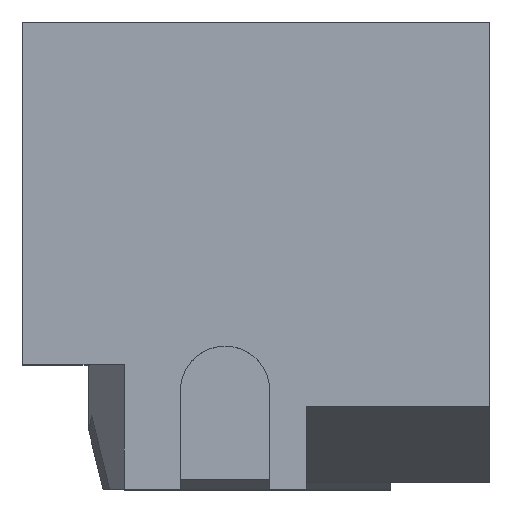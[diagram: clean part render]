
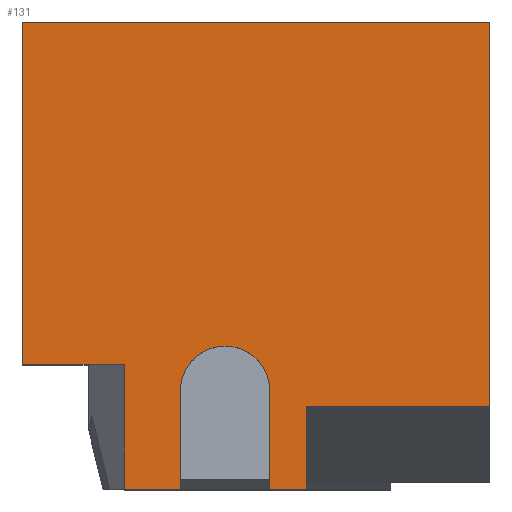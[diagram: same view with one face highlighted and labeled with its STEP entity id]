
A CAD part, top view. The second image highlights one B-rep face of the part: STEP entity #131.
In plain terms, the highlighted planar face has unit normal (0, 0, 1).
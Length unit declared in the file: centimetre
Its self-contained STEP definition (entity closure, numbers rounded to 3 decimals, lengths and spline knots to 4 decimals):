
#19 = LINE ( 'NONE', #409, #692 ) ;
#23 = ORIENTED_EDGE ( 'NONE', *, *, #547, .T. ) ;
#58 = LINE ( 'NONE', #542, #314 ) ;
#59 = CARTESIAN_POINT ( 'NONE',  ( 0., 1000., 1000. ) ) ;
#63 = VECTOR ( 'NONE', #140, 100. ) ;
#66 = ORIENTED_EDGE ( 'NONE', *, *, #1051, .F. ) ;
#70 = ORIENTED_EDGE ( 'NONE', *, *, #997, .F. ) ;
#72 = CARTESIAN_POINT ( 'NONE',  ( 338.1539, 0., 1000. ) ) ;
#84 = EDGE_CURVE ( 'NONE', #119, #979, #58, .T. ) ;
#95 = VECTOR ( 'NONE', #646, 100. ) ;
#105 = CARTESIAN_POINT ( 'NONE',  ( 607.9084, 177.0847, 1000. ) ) ;
#108 = VERTEX_POINT ( 'NONE', #293 ) ;
#111 = VECTOR ( 'NONE', #1034, 100. ) ;
#117 = VECTOR ( 'NONE', #965, 100. ) ;
#119 = VERTEX_POINT ( 'NONE', #367 ) ;
#130 = CARTESIAN_POINT ( 'NONE',  ( 607.9084, 0., 1000. ) ) ;
#131 = ADVANCED_FACE ( 'NONE', ( #803 ), #403, .T. ) ;
#139 = VERTEX_POINT ( 'NONE', #228 ) ;
#140 = DIRECTION ( 'NONE',  ( 1., 0., 0. ) ) ;
#142 = LINE ( 'NONE', #227, #400 ) ;
#162 = DIRECTION ( 'NONE',  ( 0., 1., 0. ) ) ;
#169 = CARTESIAN_POINT ( 'NONE',  ( 218.2965, 266.6594, 1000. ) ) ;
#204 = VERTEX_POINT ( 'NONE', #72 ) ;
#205 = DIRECTION ( 'NONE',  ( 0., 0., 1. ) ) ;
#211 = LINE ( 'NONE', #541, #63 ) ;
#227 = CARTESIAN_POINT ( 'NONE',  ( 529.5846, 210.6018, 1000. ) ) ;
#228 = CARTESIAN_POINT ( 'NONE',  ( 218.2965, 266.6594, 1000. ) ) ;
#235 = ORIENTED_EDGE ( 'NONE', *, *, #1047, .T. ) ;
#263 = LINE ( 'NONE', #660, #1006 ) ;
#280 = EDGE_CURVE ( 'NONE', #139, #526, #19, .T. ) ;
#289 = DIRECTION ( 'NONE',  ( -1., 0., 0. ) ) ;
#293 = CARTESIAN_POINT ( 'NONE',  ( 1000., 177.0847, 1000. ) ) ;
#298 = DIRECTION ( 'NONE',  ( 1., 0., 0. ) ) ;
#303 = CARTESIAN_POINT ( 'NONE',  ( 607.9084, 0., 1000. ) ) ;
#314 = VECTOR ( 'NONE', #525, 100. ) ;
#357 = ORIENTED_EDGE ( 'NONE', *, *, #666, .T. ) ;
#361 = ORIENTED_EDGE ( 'NONE', *, *, #929, .T. ) ;
#367 = CARTESIAN_POINT ( 'NONE',  ( 529.5846, 0., 1000. ) ) ;
#368 = VERTEX_POINT ( 'NONE', #669 ) ;
#369 = AXIS2_PLACEMENT_3D ( 'NONE', #900, #725, #971 ) ;
#371 = CARTESIAN_POINT ( 'NONE',  ( 338.1539, 210.6018, 1000. ) ) ;
#387 = CARTESIAN_POINT ( 'NONE',  ( 607.9084, 177.0847, 1000. ) ) ;
#392 = LINE ( 'NONE', #59, #95 ) ;
#396 = VERTEX_POINT ( 'NONE', #773 ) ;
#400 = VECTOR ( 'NONE', #162, 100. ) ;
#403 = PLANE ( 'NONE',  #369 ) ;
#408 = VERTEX_POINT ( 'NONE', #371 ) ;
#409 = CARTESIAN_POINT ( 'NONE',  ( 0., 266.6594, 1000. ) ) ;
#455 = EDGE_LOOP ( 'NONE', ( #235, #357, #560, #23, #468, #999, #361, #66, #698, #70, #682, #777 ) ) ;
#456 = EDGE_CURVE ( 'NONE', #637, #979, #791, .T. ) ;
#468 = ORIENTED_EDGE ( 'NONE', *, *, #280, .F. ) ;
#514 = DIRECTION ( 'NONE',  ( 0., -1., 0. ) ) ;
#525 = DIRECTION ( 'NONE',  ( 1., 0., 0. ) ) ;
#526 = VERTEX_POINT ( 'NONE', #671 ) ;
#541 = CARTESIAN_POINT ( 'NONE',  ( 0., 0., 1000. ) ) ;
#542 = CARTESIAN_POINT ( 'NONE',  ( 0., 0., 1000. ) ) ;
#547 = EDGE_CURVE ( 'NONE', #618, #526, #1020, .T. ) ;
#560 = ORIENTED_EDGE ( 'NONE', *, *, #964, .T. ) ;
#572 = LINE ( 'NONE', #169, #589 ) ;
#589 = VECTOR ( 'NONE', #749, 100. ) ;
#618 = VERTEX_POINT ( 'NONE', #1011 ) ;
#637 = VERTEX_POINT ( 'NONE', #105 ) ;
#646 = DIRECTION ( 'NONE',  ( -1., 0., 0. ) ) ;
#660 = CARTESIAN_POINT ( 'NONE',  ( 1000., 1000., 1000. ) ) ;
#666 = EDGE_CURVE ( 'NONE', #108, #368, #263, .T. ) ;
#669 = CARTESIAN_POINT ( 'NONE',  ( 1000., 1000., 1000. ) ) ;
#671 = CARTESIAN_POINT ( 'NONE',  ( 0., 266.6594, 1000. ) ) ;
#682 = ORIENTED_EDGE ( 'NONE', *, *, #84, .T. ) ;
#688 = CARTESIAN_POINT ( 'NONE',  ( 0., 1000., 1000. ) ) ;
#692 = VECTOR ( 'NONE', #828, 100. ) ;
#698 = ORIENTED_EDGE ( 'NONE', *, *, #858, .F. ) ;
#706 = CARTESIAN_POINT ( 'NONE',  ( 433.8692, 210.6018, 1000. ) ) ;
#715 = LINE ( 'NONE', #1048, #117 ) ;
#725 = DIRECTION ( 'NONE',  ( 0., 0., 1. ) ) ;
#726 = VECTOR ( 'NONE', #514, 100. ) ;
#749 = DIRECTION ( 'NONE',  ( 0., -1., 0. ) ) ;
#766 = EDGE_CURVE ( 'NONE', #139, #909, #572, .T. ) ;
#773 = CARTESIAN_POINT ( 'NONE',  ( 529.5846, 210.6018, 1000. ) ) ;
#777 = ORIENTED_EDGE ( 'NONE', *, *, #456, .F. ) ;
#784 = CARTESIAN_POINT ( 'NONE',  ( 218.2965, 0., 1000. ) ) ;
#785 = CIRCLE ( 'NONE', #903, 95.7153 ) ;
#791 = LINE ( 'NONE', #130, #111 ) ;
#797 = LINE ( 'NONE', #387, #1028 ) ;
#803 = FACE_OUTER_BOUND ( 'NONE', #455, .T. ) ;
#828 = DIRECTION ( 'NONE',  ( -1., 0., 0. ) ) ;
#858 = EDGE_CURVE ( 'NONE', #396, #408, #785, .T. ) ;
#900 = CARTESIAN_POINT ( 'NONE',  ( 0., 0., 1000. ) ) ;
#903 = AXIS2_PLACEMENT_3D ( 'NONE', #706, #205, #289 ) ;
#909 = VERTEX_POINT ( 'NONE', #784 ) ;
#924 = DIRECTION ( 'NONE',  ( 0., 1., 0. ) ) ;
#929 = EDGE_CURVE ( 'NONE', #909, #204, #211, .T. ) ;
#964 = EDGE_CURVE ( 'NONE', #368, #618, #392, .T. ) ;
#965 = DIRECTION ( 'NONE',  ( 0., -1., 0. ) ) ;
#971 = DIRECTION ( 'NONE',  ( 1., 0., 0. ) ) ;
#979 = VERTEX_POINT ( 'NONE', #303 ) ;
#997 = EDGE_CURVE ( 'NONE', #119, #396, #142, .T. ) ;
#999 = ORIENTED_EDGE ( 'NONE', *, *, #766, .T. ) ;
#1006 = VECTOR ( 'NONE', #924, 100. ) ;
#1011 = CARTESIAN_POINT ( 'NONE',  ( 0., 1000., 1000. ) ) ;
#1020 = LINE ( 'NONE', #688, #726 ) ;
#1028 = VECTOR ( 'NONE', #298, 100. ) ;
#1034 = DIRECTION ( 'NONE',  ( 0., -1., 0. ) ) ;
#1047 = EDGE_CURVE ( 'NONE', #637, #108, #797, .T. ) ;
#1048 = CARTESIAN_POINT ( 'NONE',  ( 338.1539, 0., 1000. ) ) ;
#1051 = EDGE_CURVE ( 'NONE', #408, #204, #715, .T. ) ;
